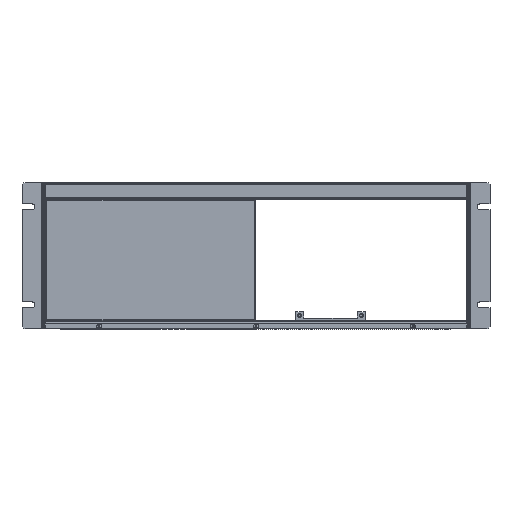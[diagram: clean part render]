
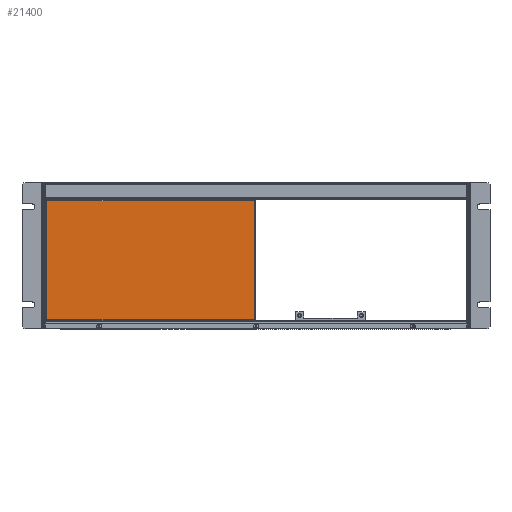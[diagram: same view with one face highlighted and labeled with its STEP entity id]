
A CAD part, top view. The second image highlights one B-rep face of the part: STEP entity #21400.
In plain terms, the highlighted planar face has unit normal (0, 0, 1).
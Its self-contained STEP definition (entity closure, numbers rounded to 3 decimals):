
#18779=DIRECTION('',(-1.,0.,0.));
#18780=VECTOR('',#18779,1.2);
#18781=CARTESIAN_POINT('',(-213.3,63.8,-3.2));
#18782=LINE('',#18781,#18780);
#18783=DIRECTION('',(1.,0.,0.));
#18784=VECTOR('',#18783,1.2);
#18785=CARTESIAN_POINT('',(-1.7,-55.8,-3.2));
#18786=LINE('',#18785,#18784);
#18787=DIRECTION('',(0.,-1.,0.));
#18788=VECTOR('',#18787,1.);
#18789=CARTESIAN_POINT('',(-214.5,-55.8,-3.2));
#18790=LINE('',#18789,#18788);
#18795=DIRECTION('',(-1.,0.,0.));
#18796=VECTOR('',#18795,1.2);
#18797=CARTESIAN_POINT('',(-213.3,-55.8,-3.2));
#18798=LINE('',#18797,#18796);
#19077=DIRECTION('',(1.,0.,0.));
#19078=VECTOR('',#19077,214.);
#19079=CARTESIAN_POINT('',(-214.5,-56.8,-3.2));
#19080=LINE('',#19079,#19078);
#19099=DIRECTION('',(0.,1.,0.));
#19100=VECTOR('',#19099,1.);
#19101=CARTESIAN_POINT('',(-0.5,-56.8,-3.2));
#19102=LINE('',#19101,#19100);
#19129=DIRECTION('',(0.,1.,0.));
#19130=VECTOR('',#19129,119.6);
#19131=CARTESIAN_POINT('',(-1.7,-55.8,-3.2));
#19132=LINE('',#19131,#19130);
#19240=DIRECTION('',(1.,0.,0.));
#19241=VECTOR('',#19240,1.2);
#19242=CARTESIAN_POINT('',(-1.7,63.8,-3.2));
#19243=LINE('',#19242,#19241);
#19248=DIRECTION('',(0.,1.,0.));
#19249=VECTOR('',#19248,1.);
#19250=CARTESIAN_POINT('',(-0.5,63.8,-3.2));
#19251=LINE('',#19250,#19249);
#19274=DIRECTION('',(-1.,0.,0.));
#19275=VECTOR('',#19274,214.);
#19276=CARTESIAN_POINT('',(-0.5,64.8,-3.2));
#19277=LINE('',#19276,#19275);
#19367=DIRECTION('',(0.,-1.,0.));
#19368=VECTOR('',#19367,1.);
#19369=CARTESIAN_POINT('',(-214.5,64.8,-3.2));
#19370=LINE('',#19369,#19368);
#19397=DIRECTION('',(0.,-1.,0.));
#19398=VECTOR('',#19397,119.6);
#19399=CARTESIAN_POINT('',(-213.3,63.8,-3.2));
#19400=LINE('',#19399,#19398);
#20809=CARTESIAN_POINT('',(-214.5,-55.8,-3.2));
#20810=CARTESIAN_POINT('',(-214.5,-56.8,-3.2));
#20811=VERTEX_POINT('',#20809);
#20812=VERTEX_POINT('',#20810);
#20813=CARTESIAN_POINT('',(-213.3,-55.8,-3.2));
#20814=VERTEX_POINT('',#20813);
#20815=CARTESIAN_POINT('',(-213.3,63.8,-3.2));
#20816=VERTEX_POINT('',#20815);
#20817=CARTESIAN_POINT('',(-214.5,63.8,-3.2));
#20818=VERTEX_POINT('',#20817);
#20819=CARTESIAN_POINT('',(-214.5,64.8,-3.2));
#20820=VERTEX_POINT('',#20819);
#20821=CARTESIAN_POINT('',(-0.5,64.8,-3.2));
#20822=VERTEX_POINT('',#20821);
#20823=CARTESIAN_POINT('',(-0.5,63.8,-3.2));
#20824=VERTEX_POINT('',#20823);
#20825=CARTESIAN_POINT('',(-1.7,63.8,-3.2));
#20826=VERTEX_POINT('',#20825);
#20827=CARTESIAN_POINT('',(-1.7,-55.8,-3.2));
#20828=VERTEX_POINT('',#20827);
#20829=CARTESIAN_POINT('',(-0.5,-55.8,-3.2));
#20830=VERTEX_POINT('',#20829);
#20831=CARTESIAN_POINT('',(-0.5,-56.8,-3.2));
#20832=VERTEX_POINT('',#20831);
#21369=CARTESIAN_POINT('',(0.,0.,-3.2));
#21370=DIRECTION('',(0.,0.,1.));
#21371=DIRECTION('',(1.,0.,0.));
#21372=AXIS2_PLACEMENT_3D('',#21369,#21370,#21371);
#21373=PLANE('',#21372);
#21375=ORIENTED_EDGE('',*,*,#21374,.F.);
#21377=ORIENTED_EDGE('',*,*,#21376,.F.);
#21379=ORIENTED_EDGE('',*,*,#21378,.F.);
#21381=ORIENTED_EDGE('',*,*,#21380,.T.);
#21383=ORIENTED_EDGE('',*,*,#21382,.F.);
#21385=ORIENTED_EDGE('',*,*,#21384,.F.);
#21387=ORIENTED_EDGE('',*,*,#21386,.F.);
#21389=ORIENTED_EDGE('',*,*,#21388,.F.);
#21391=ORIENTED_EDGE('',*,*,#21390,.F.);
#21393=ORIENTED_EDGE('',*,*,#21392,.T.);
#21395=ORIENTED_EDGE('',*,*,#21394,.F.);
#21397=ORIENTED_EDGE('',*,*,#21396,.F.);
#21398=EDGE_LOOP('',(#21375,#21377,#21379,#21381,#21383,#21385,#21387,#21389,
#21391,#21393,#21395,#21397));
#21399=FACE_OUTER_BOUND('',#21398,.F.);
#21400=ADVANCED_FACE('',(#21399),#21373,.T.);
#21374=EDGE_CURVE('',#20811,#20812,#18790,.T.);
#21376=EDGE_CURVE('',#20814,#20811,#18798,.T.);
#21378=EDGE_CURVE('',#20816,#20814,#19400,.T.);
#21380=EDGE_CURVE('',#20816,#20818,#18782,.T.);
#21382=EDGE_CURVE('',#20820,#20818,#19370,.T.);
#21384=EDGE_CURVE('',#20822,#20820,#19277,.T.);
#21386=EDGE_CURVE('',#20824,#20822,#19251,.T.);
#21388=EDGE_CURVE('',#20826,#20824,#19243,.T.);
#21390=EDGE_CURVE('',#20828,#20826,#19132,.T.);
#21392=EDGE_CURVE('',#20828,#20830,#18786,.T.);
#21394=EDGE_CURVE('',#20832,#20830,#19102,.T.);
#21396=EDGE_CURVE('',#20812,#20832,#19080,.T.);
